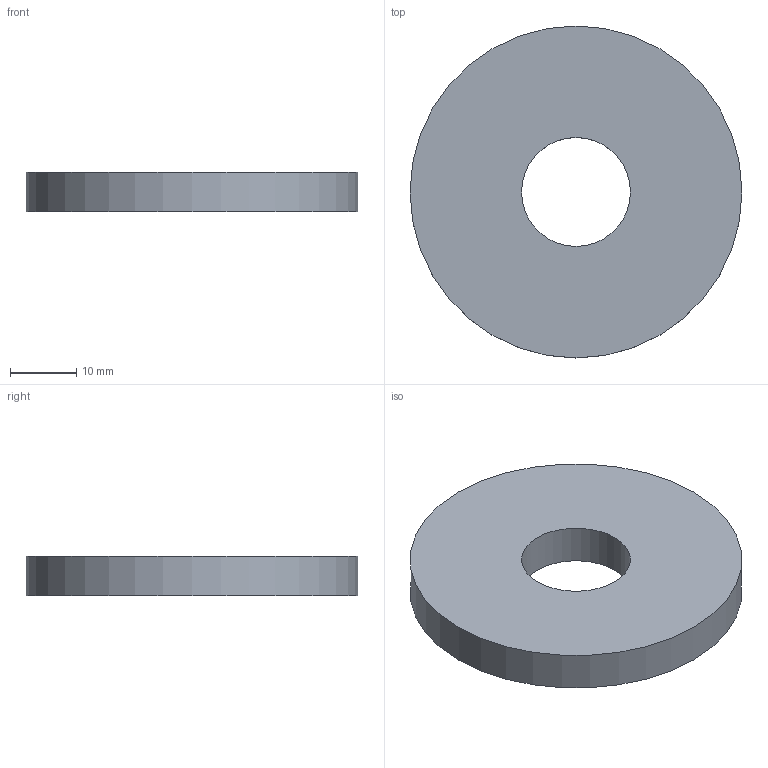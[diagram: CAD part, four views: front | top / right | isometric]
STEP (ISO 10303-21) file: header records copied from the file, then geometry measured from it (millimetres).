
FILE_DESCRIPTION(('Open CASCADE Model'),'2;1');
FILE_NAME('Open CASCADE Shape Model','2026-10-04T01:02:25',('Author'),( 'Open CASCADE'),'Open CASCADE STEP processor 8.0','Open CASCADE 8.0' ,'Unknown');
FILE_SCHEMA(('AUTOMOTIVE_DESIGN { 1 0 10303 214 1 1 1 1 }'));
Length unit declared in the file: millimetre
Products named in the file (1): Open CASCADE STEP translator 8.0 53
Bounding box: 50 x 50 x 6 mm (x, y, z)
Volume: 10513.5 mm3; surface area: 4756.1 mm2
Topology: 1 solids, 1 shells, 4 faces, 6 edges, 4 vertices
Faces by surface type: cylinder 2, plane 2
Full cylindrical faces by diameter (mm): 16.4 x1, 50 x1
Entity records: 186 total; most frequent: DIRECTION 32, CARTESIAN_POINT 27, ORIENTED_EDGE 12, PCURVE 12, DEFINITIONAL_REPRESENTATION 12, LINE 10, VECTOR 10, AXIS2_PLACEMENT_3D 9
